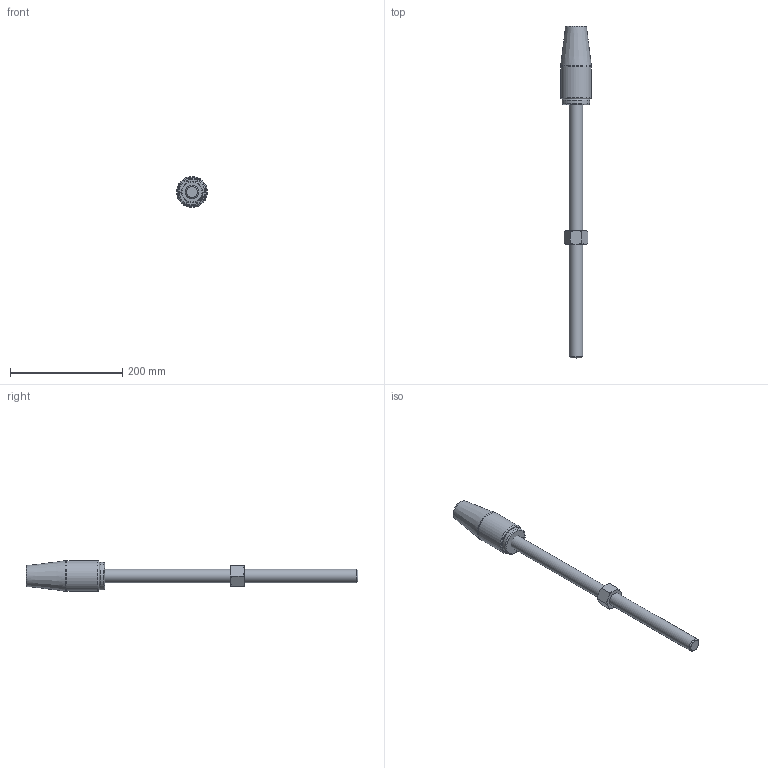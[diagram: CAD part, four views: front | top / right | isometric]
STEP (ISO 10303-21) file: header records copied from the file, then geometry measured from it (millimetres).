
FILE_DESCRIPTION(/* description */ (''),/* implementation_level */ '2;1');
FILE_NAME(/* name */ 'D:\Clienti\Redaelli (inventor)\CYB\STEP\Arrangement\CYB016 52 061 0.stp',/* time_stamp */ '2021-05-08T14:28:27+02:00',/* author */ ('fabri'),/* organization */ (''),/* preprocessor_version */ 'ST-DEVELOPER v16.13',/* originating_system */ 'Autodesk Inventor 2018',/* authorisation */ '');
FILE_SCHEMA (('AUTOMOTIVE_DESIGN { 1 0 10303 214 3 1 1 }'));
Length unit declared in the file: millimetre
Products named in the file (5): CYB012-52-061-0; RNT016 41 051 0_ROD; CCY021-51-061-0_BUSH; CCY021-51-061-0; UNI 5587 - M24
Assembly tree (4 placements, depth 2):
  CYB012-52-061-0
    RNT016 41 051 0_ROD
    CCY021-51-061-0_BUSH
    CCY021-51-061-0
    UNI 5587 - M24
Bounding box: 54.99 x 592 x 54.99 mm (x, y, z)
Volume: 543099.1 mm3; surface area: 80192.7 mm2
Topology: 4 solids, 4 shells, 696 faces, 1857 edges, 1231 vertices
Faces by surface type: bspline 364, plane 302, cone 19, cylinder 7, torus 4
Full cylindrical faces by diameter (mm): 20.752 x2, 24 x1, 31 x1, 36 x1, 50 x1, 55 x1
Entity records: 23473 total; most frequent: CARTESIAN_POINT 8566, ORIENTED_EDGE 3674, EDGE_CURVE 1837, DIRECTION 1807, VERTEX_POINT 1229, LINE 1047, VECTOR 1047, EDGE_LOOP 780
